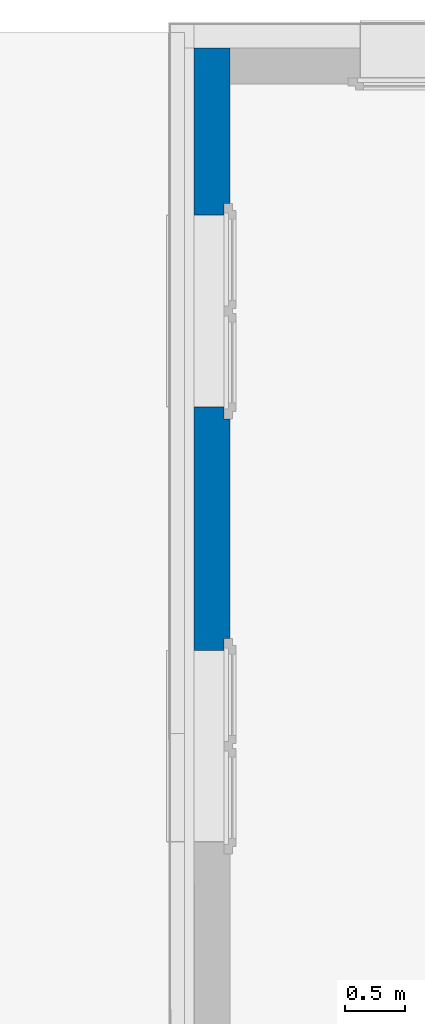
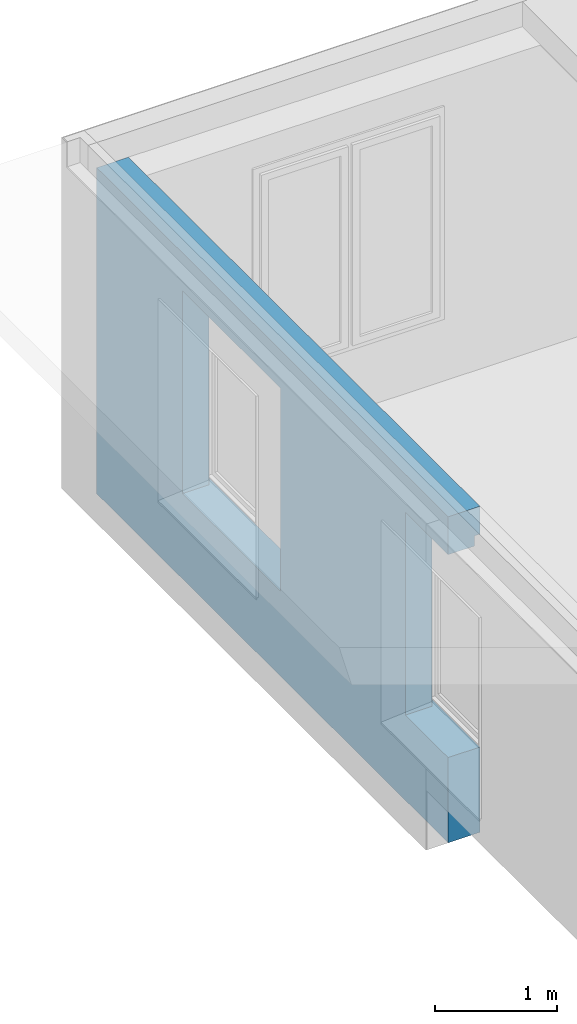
# One storey, part 5 of 20: 1 wall, 2 openings.
"""IFC4 building model written with IfcOpenShell, lengths in millimetres."""

from ifc_helpers import new_model, entity, si_unit, converted_unit, derived_unit, direction, frame, origin_with_axes, place, context, subcontext, project, spatial, polygons, material, constituent, constituent_set, type_object, element, save


model = new_model("IFC4")

# Units and contexts
model_context = context("Model", 3, precision=0.01, world=origin_with_axes(), true_north=direction((0.0, 1.0)))
body_context = subcontext(model_context, "Body", "Model", "MODEL_VIEW")
ifc_project = project(units=[si_unit("LENGTHUNIT", "METRE", prefix="MILLI"), si_unit("AREAUNIT", "SQUARE_METRE"), si_unit("VOLUMEUNIT", "CUBIC_METRE"), converted_unit("PLANEANGLEUNIT", "DEGREE", entity("IfcPlaneAngleMeasure", 0.0174532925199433), si_unit("PLANEANGLEUNIT", "RADIAN"), dimensions=[0, 0, 0, 0, 0, 0, 0]), converted_unit("TIMEUNIT", "Year", entity("IfcTimeMeasure", 31557600.0), si_unit("TIMEUNIT", "SECOND"), dimensions=[0, 0, 1, 0, 0, 0, 0]), si_unit("MASSUNIT", "GRAM", prefix="KILO"), si_unit("THERMODYNAMICTEMPERATUREUNIT", "DEGREE_CELSIUS"), si_unit("LUMINOUSINTENSITYUNIT", "LUMEN"), si_unit("ENERGYUNIT", "JOULE", prefix="MEGA"), derived_unit("THERMALCONDUCTANCEUNIT", [(si_unit("POWERUNIT", "WATT"), 1), (si_unit("LENGTHUNIT", "METRE"), -1), (si_unit("THERMODYNAMICTEMPERATUREUNIT", "KELVIN"), -1)]), derived_unit("SPECIFICHEATCAPACITYUNIT", [(si_unit("ENERGYUNIT", "JOULE"), 1), (si_unit("MASSUNIT", "GRAM", prefix="KILO"), -1), (si_unit("THERMODYNAMICTEMPERATUREUNIT", "KELVIN"), -1)]), derived_unit("MASSDENSITYUNIT", [(si_unit("MASSUNIT", "GRAM", prefix="KILO"), 1), (si_unit("VOLUMEUNIT", "CUBIC_METRE"), -1)])], contexts=[model_context])

# Site, building, storey
site_placement = place(None, origin_with_axes())
site = spatial("IfcSite", under=ifc_project, at=site_placement, Name="Gelände", CompositionType="ELEMENT")
building_placement = place(site_placement, origin_with_axes())
building = spatial("IfcBuilding", under=site, at=building_placement, Name="Gebäude", CompositionType="ELEMENT")
storey_placement = place(building_placement, frame((0.0, 0.0, 5.198845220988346e-05), z_axis=(0.0, 0.0, 1.0), x_axis=(1.0, 0.0, 0.0)))
storey = spatial("IfcBuildingStorey", under=building, at=storey_placement, Name="EG", CompositionType="ELEMENT", Elevation=0.0)

# Wall, openings
ifc_material = material(Name="Beton bewehrt")
ifc_constituent = constituent(ifc_material, Name="Beton bewehrt")
ifc_constituent_set = constituent_set(constituents=[ifc_constituent], Name="Aussenwand Typ 05")
wall_type = type_object("IfcWallType", Name="Aussenwand Typ 05 300", PredefinedType="NOTDEFINED")
wall_placement = place(storey_placement, frame((-6861.004181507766, 37737.5972813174, -600.0000519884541), z_axis=(0.0, 0.0, 1.0), x_axis=(0.0, -1.0, 0.0)))
wall = element("IfcWall", 1, at=wall_placement, inside=storey, type_object=wall_type, material=ifc_constituent_set, Name="Wand-014", PredefinedType="NOTDEFINED", context=body_context, shape_type="Tessellation", body=[
    polygons([(1400.000000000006, 250.0000000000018, 850.0000000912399), (1400.000000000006, 250.0000000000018, 2872.000000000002), (1400.000000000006, 0.0, 2872.000000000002), (1400.000000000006, 0.0, 850.0000000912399), (3004.000000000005, 250.0000000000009, 2872.000000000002), (1300.000000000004, 250.0000000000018, 850.0000000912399), (1300.000000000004, 250.0000000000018, 2972.000000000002), (3104.000000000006, 250.0000000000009, 2972.000000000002), (3104.000000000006, 250.0000000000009, 850.0000000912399), (3004.000000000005, 250.0000000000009, 850.0000000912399), (3004.000000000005, 0.0, 2872.000000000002), (5041.999999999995, 0.0, 850.0000000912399), (5041.999999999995, 0.0, 2872.000000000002), (5740.000282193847, 0.0, 2872.000000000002), (5740.000282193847, 0.0, 3250.000000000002), (0.0, 0.0, 3250.000000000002), (0.0, 0.0, 0.0), (5740.000282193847, 0.0, 0.0), (5740.000282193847, 0.0, 850.00000009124), (3004.000000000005, 0.0, 850.0000000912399), (3104.000000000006, 300.0000000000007, 850.0000000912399), (1300.000000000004, 300.0000000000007, 850.0000000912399), (1300.000000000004, 300.0000000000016, 2972.000000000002), (3104.000000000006, 300.0000000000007, 2972.000000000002), (5041.999999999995, 250.0000000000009, 850.0000000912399), (5041.999999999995, 250.0000000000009, 2872.000000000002), (5740.000282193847, 250.0000000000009, 2872.000000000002), (5740.000282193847, 250.0000000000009, 2972.000000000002), (5740.000282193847, 300.0000000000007, 2972.000000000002), (5740.000282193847, 300.0000000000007, 3250.000000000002), (0.0, 299.9999999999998, 3250.000000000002), (0.0, 299.9999999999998, 0.0), (5740.000282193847, 299.9999999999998, 0.0), (5740.000282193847, 299.9999999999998, 850.0000000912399), (4942.0, 300.0000000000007, 850.0000000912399), (4942.0, 250.0000000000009, 850.0000000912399), (4942.0, 300.0000000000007, 2972.000000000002), (4942.0, 250.0000000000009, 2972.000000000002)], [[[1, 2, 3, 4]], [[5, 2, 1, 6, 7, 8, 9, 10]], [[2, 5, 11, 3]], [[12, 13, 14, 15, 16, 17, 18, 19], [4, 3, 11, 20]], [[10, 9, 21, 22, 6, 1, 4, 20]], [[22, 23, 7, 6]], [[23, 24, 8, 7]], [[24, 21, 9, 8]], [[5, 10, 20, 11]], [[13, 12, 25, 26]], [[14, 13, 26, 27]], [[28, 29, 30, 15, 14, 27]], [[16, 15, 30, 31]], [[31, 32, 17, 16]], [[32, 33, 18, 17]], [[18, 33, 34, 19]], [[34, 35, 36, 25, 12, 19]], [[33, 32, 31, 30, 29, 37, 35, 34], [21, 24, 23, 22]], [[27, 26, 25, 36, 38, 28]], [[28, 38, 37, 29]], [[38, 36, 35, 37]]], closed=True),
])
opening_1_placement = place(wall_placement, frame((2202.000000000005, 0.0, 910.00000009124), z_axis=(0.0, 0.0, 1.0), x_axis=(1.0, 0.0, 0.0)))
element("IfcOpeningElement", 2, at=opening_1_placement, cuts=wall, Name="Fenster-004", context=body_context, identifier="Reference", shape_type="Tessellation", body=[
    polygons([(-800.0000000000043, -1.00000000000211, 1961.999999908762), (-800.0000000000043, 0.0, 1961.999999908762), (799.9999999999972, 0.0, 1961.999999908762), (799.9999999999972, -1.000000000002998, 1961.999999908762), (801.9999999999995, -1.000000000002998, 1961.999999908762), (801.9999999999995, 250.0, 1961.999999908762), (-801.9999999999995, 250.0000000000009, 1961.999999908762), (-801.9999999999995, -1.00000000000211, 1961.999999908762), (-800.0000000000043, -1.00000000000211, 1959.999999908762), (-800.0000000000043, -149.9999999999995, 1959.999999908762), (-800.0000000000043, -149.9999999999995, 2249.999999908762), (-800.0000000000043, 0.0, 2249.999999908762), (799.9999999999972, 0.0, 2249.999999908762), (799.9999999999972, -149.9999999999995, 2249.999999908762), (799.9999999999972, -149.9999999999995, 1959.999999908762), (799.9999999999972, -1.000000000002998, 1959.999999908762), (-801.9999999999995, -1.00000000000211, -60.00000000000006), (801.9999999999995, -1.000000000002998, -60.00000000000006), (801.9999999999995, 250.0, -60.00000000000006), (-801.9999999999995, 250.0000000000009, -60.00000000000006), (902.000000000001, 250.0, -60.00000000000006), (902.000000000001, 250.0, 2061.999999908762), (-902.000000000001, 250.0000000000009, 2061.999999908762), (-902.000000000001, 250.0000000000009, -60.00000000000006), (-902.000000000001, 301.0000000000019, -60.00000000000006), (902.000000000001, 301.000000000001, -60.00000000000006), (902.000000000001, 301.000000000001, 2061.999999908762), (-902.000000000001, 301.0000000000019, 2061.999999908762)], [[[1, 2, 3, 4, 5, 6, 7, 8]], [[2, 1, 9, 10, 11, 12]], [[3, 2, 12, 13]], [[4, 3, 13, 14, 15, 16]], [[9, 1, 8, 17, 18, 5, 4, 16]], [[19, 6, 5, 18]], [[20, 7, 6, 19, 21, 22, 23, 24]], [[7, 20, 17, 8]], [[9, 16, 15, 10]], [[11, 10, 15, 14]], [[12, 11, 14, 13]], [[19, 18, 17, 20, 24, 25, 26, 21]], [[22, 21, 26, 27]], [[23, 22, 27, 28]], [[24, 23, 28, 25]], [[27, 26, 25, 28]]], closed=True),
])
opening_2_placement = place(wall_placement, frame((5843.999999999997, 0.0, 910.00000009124), z_axis=(0.0, 0.0, 1.0), x_axis=(1.0, 0.0, 0.0)))
element("IfcOpeningElement", 3, at=opening_2_placement, cuts=wall, Name="Fenster-004", context=body_context, identifier="Reference", shape_type="Tessellation", body=[
    polygons([(-800.0000000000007, -1.000000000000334, 1961.999999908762), (-800.0000000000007, 0.0, 1961.999999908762), (-102.9997178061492, 0.0, 1961.999999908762), (-102.9997178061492, -1.000000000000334, 1961.999999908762), (801.9999999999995, -1.000000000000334, 1961.999999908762), (801.9999999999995, 250.0000000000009, 1961.999999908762), (-802.0000000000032, 250.0000000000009, 1961.999999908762), (-802.0000000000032, -1.000000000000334, 1961.999999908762), (-800.0000000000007, -1.000000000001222, 1959.999999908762), (-800.0000000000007, -149.9999999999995, 1959.999999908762), (-800.0000000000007, -149.9999999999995, 2249.999999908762), (-800.0000000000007, 0.0, 2249.999999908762), (-102.9997178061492, 0.0, 2249.999999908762), (-102.9997178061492, -149.9999999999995, 2249.999999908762), (-102.9997178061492, -149.9999999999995, 1959.999999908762), (-102.9997178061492, -1.000000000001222, 1959.999999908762), (-802.0000000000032, -1.000000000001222, -60.00000000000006), (801.9999999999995, -1.000000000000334, -60.00000000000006), (801.9999999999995, 250.0000000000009, -60.00000000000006), (-802.0000000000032, 250.0000000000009, -60.00000000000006), (902.000000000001, 250.0000000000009, -60.00000000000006), (902.000000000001, 250.0000000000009, 2061.999999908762), (-901.9999999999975, 250.0000000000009, 2061.999999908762), (-901.9999999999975, 250.0000000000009, -60.00000000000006), (-901.9999999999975, 301.000000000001, -60.00000000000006), (902.000000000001, 301.000000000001, -60.00000000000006), (902.000000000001, 301.000000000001, 2061.999999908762), (-901.9999999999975, 301.000000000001, 2061.999999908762)], [[[1, 2, 3, 4, 5, 6, 7, 8]], [[2, 1, 9, 10, 11, 12]], [[3, 2, 12, 13]], [[4, 3, 13, 14, 15, 16]], [[9, 1, 8, 17, 18, 5, 4, 16]], [[19, 6, 5, 18]], [[20, 7, 6, 19, 21, 22, 23, 24]], [[7, 20, 17, 8]], [[9, 16, 15, 10]], [[11, 10, 15, 14]], [[12, 11, 14, 13]], [[19, 18, 17, 20, 24, 25, 26, 21]], [[22, 21, 26, 27]], [[23, 22, 27, 28]], [[24, 23, 28, 25]], [[27, 26, 25, 28]]], closed=True),
])

save(model, "model.ifc")
